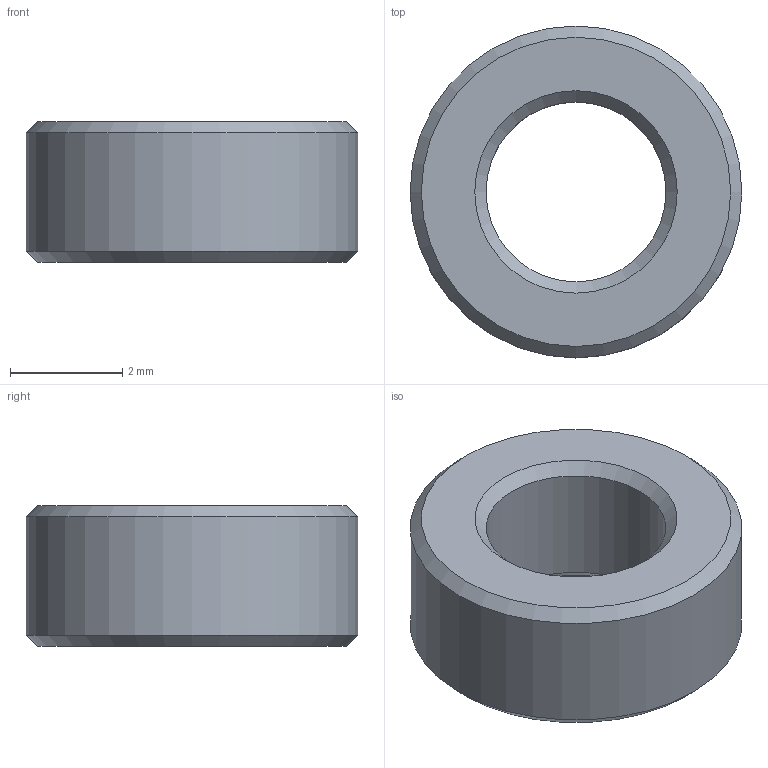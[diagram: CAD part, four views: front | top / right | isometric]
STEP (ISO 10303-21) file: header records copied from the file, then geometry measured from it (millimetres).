
FILE_DESCRIPTION(('Open CASCADE Model'),'2;1');
FILE_NAME('Open CASCADE Shape Model','2026-11-05T10:33:08',('Author'),( 'Open CASCADE'),'Open CASCADE STEP processor 8.0','build123d', 'Unknown');
FILE_SCHEMA(('AUTOMOTIVE_DESIGN { 1 0 10303 214 1 1 1 1 }'));
Length unit declared in the file: millimetre
Products named in the file (1): COMPOUND
Bounding box: 5.9 x 5.9 x 2.5 mm (x, y, z)
Volume: 47.1 mm3; surface area: 103.4 mm2
Topology: 1 solids, 1 shells, 8 faces, 14 edges, 8 vertices
Faces by surface type: cone 4, cylinder 2, plane 2
Full cylindrical faces by diameter (mm): 3.2 x1, 5.9 x1
Entity records: 382 total; most frequent: CARTESIAN_POINT 67, DIRECTION 60, ORIENTED_EDGE 28, PCURVE 28, DEFINITIONAL_REPRESENTATION 28, LINE 22, VECTOR 22, AXIS2_PLACEMENT_3D 17
